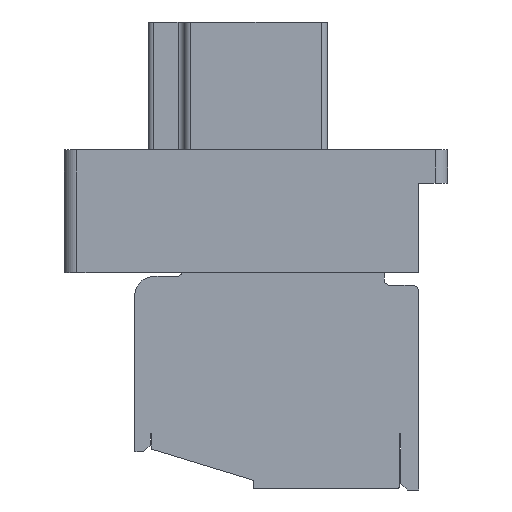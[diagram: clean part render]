
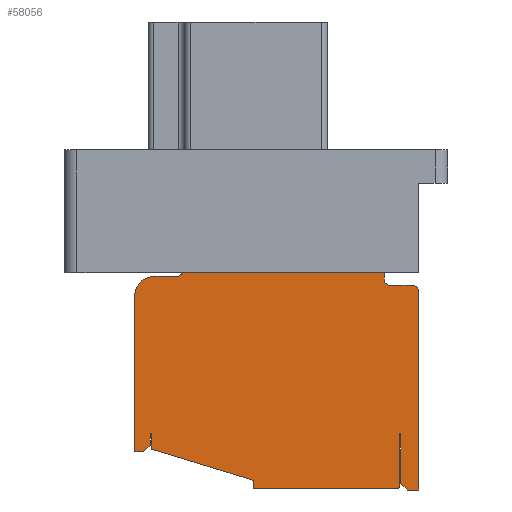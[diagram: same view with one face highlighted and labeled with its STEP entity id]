
A CAD part, left-side view. The second image highlights one B-rep face of the part: STEP entity #58056.
In plain terms, the highlighted planar face has unit normal (-1, 0, 0).
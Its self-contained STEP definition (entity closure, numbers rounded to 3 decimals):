
#873=DIRECTION('',(0.,-1.,0.));
#874=VECTOR('',#873,5.6);
#875=CARTESIAN_POINT('',(0.44,6.45,-18.25));
#876=LINE('',#875,#874);
#5523=DIRECTION('',(0.,0.,-1.));
#5524=VECTOR('',#5523,1.95);
#5525=CARTESIAN_POINT('',(0.44,0.7,-16.1));
#5526=LINE('',#5525,#5524);
#5579=DIRECTION('',(0.,0.,1.));
#5580=VECTOR('',#5579,7.75);
#5581=CARTESIAN_POINT('',(0.44,0.,-18.3));
#5582=LINE('',#5581,#5580);
#5843=DIRECTION('',(0.,-1.,0.));
#5844=VECTOR('',#5843,0.45);
#5845=CARTESIAN_POINT('',(0.44,0.45,-18.3));
#5846=LINE('',#5845,#5844);
#5859=DIRECTION('',(0.,1.,0.));
#5860=VECTOR('',#5859,0.05);
#5861=CARTESIAN_POINT('',(0.44,0.7,-16.1));
#5862=LINE('',#5861,#5860);
#5863=DIRECTION('',(0.,0.,-1.));
#5864=VECTOR('',#5863,2.05);
#5865=CARTESIAN_POINT('',(0.44,0.75,-16.1));
#5866=LINE('',#5865,#5864);
#5867=CARTESIAN_POINT('',(0.44,0.85,-18.15));
#5868=DIRECTION('',(1.,0.,0.));
#5869=DIRECTION('',(0.,-1.,0.));
#5870=AXIS2_PLACEMENT_3D('',#5867,#5868,#5869);
#5872=DIRECTION('',(0.,0.956,0.292));
#5873=VECTOR('',#5872,4.183);
#5874=CARTESIAN_POINT('',(0.44,6.45,-17.923));
#5875=LINE('',#5874,#5873);
#5876=DIRECTION('',(0.,0.,1.));
#5877=VECTOR('',#5876,0.6);
#5878=CARTESIAN_POINT('',(0.44,10.45,-16.7));
#5879=LINE('',#5878,#5877);
#5880=DIRECTION('',(0.,1.,0.));
#5881=VECTOR('',#5880,0.05);
#5882=CARTESIAN_POINT('',(0.44,10.45,-16.1));
#5883=LINE('',#5882,#5881);
#5884=DIRECTION('',(0.,0.,-1.));
#5885=VECTOR('',#5884,0.45);
#5886=CARTESIAN_POINT('',(0.44,10.5,-16.1));
#5887=LINE('',#5886,#5885);
#5888=DIRECTION('',(0.,0.707,-0.707));
#5889=VECTOR('',#5888,0.354);
#5890=CARTESIAN_POINT('',(0.44,10.5,-16.55));
#5891=LINE('',#5890,#5889);
#5892=DIRECTION('',(0.,0.,1.));
#5893=VECTOR('',#5892,6.1);
#5894=CARTESIAN_POINT('',(0.44,11.1,-16.8));
#5895=LINE('',#5894,#5893);
#5896=CARTESIAN_POINT('',(0.44,10.35,-10.7));
#5897=DIRECTION('',(1.,0.,0.));
#5898=DIRECTION('',(0.,1.,0.));
#5899=AXIS2_PLACEMENT_3D('',#5896,#5897,#5898);
#5901=CARTESIAN_POINT('',(0.44,9.48,-9.7));
#5902=DIRECTION('',(-1.,0.,0.));
#5903=DIRECTION('',(0.,0.,-1.));
#5904=AXIS2_PLACEMENT_3D('',#5901,#5902,#5903);
#5906=CARTESIAN_POINT('',(0.44,9.48,-9.25));
#5907=DIRECTION('',(-1.,0.,0.));
#5908=DIRECTION('',(0.,-1.,0.));
#5909=AXIS2_PLACEMENT_3D('',#5906,#5907,#5908);
#5911=DIRECTION('',(0.,-0.707,-0.707));
#5912=VECTOR('',#5911,0.707);
#5913=CARTESIAN_POINT('',(0.44,3.56,-8.5));
#5914=LINE('',#5913,#5912);
#5915=CARTESIAN_POINT('',(0.44,1.6,-9.25));
#5916=DIRECTION('',(1.,0.,0.));
#5917=DIRECTION('',(0.,0.,1.));
#5918=AXIS2_PLACEMENT_3D('',#5915,#5916,#5917);
#5920=CARTESIAN_POINT('',(0.44,1.1,-10.05));
#5921=DIRECTION('',(-1.,0.,0.));
#5922=DIRECTION('',(0.,1.,0.));
#5923=AXIS2_PLACEMENT_3D('',#5920,#5921,#5922);
#5925=CARTESIAN_POINT('',(0.44,0.25,-10.55));
#5926=DIRECTION('',(1.,0.,0.));
#5927=DIRECTION('',(0.,0.,1.));
#5928=AXIS2_PLACEMENT_3D('',#5925,#5926,#5927);
#5930=DIRECTION('',(0.,0.707,0.707));
#5931=VECTOR('',#5930,0.354);
#5932=CARTESIAN_POINT('',(0.44,0.45,-18.3));
#5933=LINE('',#5932,#5931);
#15643=DIRECTION('',(0.,0.,-1.));
#15644=VECTOR('',#15643,0.327);
#15645=CARTESIAN_POINT('',(0.44,6.45,-17.923));
#15646=LINE('',#15645,#15644);
#15663=DIRECTION('',(0.,1.,0.));
#15664=VECTOR('',#15663,0.85);
#15665=CARTESIAN_POINT('',(0.44,0.25,-10.3));
#15666=LINE('',#15665,#15664);
#15679=DIRECTION('',(0.,0.,1.));
#15680=VECTOR('',#15679,0.8);
#15681=CARTESIAN_POINT('',(0.44,1.35,-10.05));
#15682=LINE('',#15681,#15680);
#15695=DIRECTION('',(0.,1.,0.));
#15696=VECTOR('',#15695,1.46);
#15697=CARTESIAN_POINT('',(0.44,1.6,-9.));
#15698=LINE('',#15697,#15696);
#15711=DIRECTION('',(0.,0.,-1.));
#15712=VECTOR('',#15711,0.5);
#15713=CARTESIAN_POINT('',(0.44,3.56,-8.5));
#15714=LINE('',#15713,#15712);
#15728=DIRECTION('',(0.,1.,0.));
#15729=VECTOR('',#15728,5.92);
#15730=CARTESIAN_POINT('',(0.44,3.56,-9.));
#15731=LINE('',#15730,#15729);
#18881=DIRECTION('',(0.,0.,-1.));
#18882=VECTOR('',#18881,0.45);
#18883=CARTESIAN_POINT('',(0.44,9.23,-9.25));
#18884=LINE('',#18883,#18882);
#18967=DIRECTION('',(0.,1.,0.));
#18968=VECTOR('',#18967,0.87);
#18969=CARTESIAN_POINT('',(0.44,9.48,-9.95));
#18970=LINE('',#18969,#18968);
#19920=DIRECTION('',(0.,-1.,0.));
#19921=VECTOR('',#19920,0.35);
#19922=CARTESIAN_POINT('',(0.44,11.1,-16.8));
#19923=LINE('',#19922,#19921);
#46464=CARTESIAN_POINT('',(0.44,11.1,-16.8));
#46465=CARTESIAN_POINT('',(0.44,11.1,-10.7));
#46466=VERTEX_POINT('',#46464);
#46467=VERTEX_POINT('',#46465);
#46534=CARTESIAN_POINT('',(0.44,10.5,-16.1));
#46535=VERTEX_POINT('',#46534);
#46537=CARTESIAN_POINT('',(0.44,0.7,-16.1));
#46539=VERTEX_POINT('',#46537);
#46540=CARTESIAN_POINT('',(0.44,3.56,-8.5));
#46541=CARTESIAN_POINT('',(0.44,3.06,-9.));
#46542=VERTEX_POINT('',#46540);
#46543=VERTEX_POINT('',#46541);
#46544=CARTESIAN_POINT('',(0.44,1.6,-9.));
#46545=CARTESIAN_POINT('',(0.44,1.35,-9.25));
#46546=VERTEX_POINT('',#46544);
#46547=VERTEX_POINT('',#46545);
#46548=CARTESIAN_POINT('',(0.44,1.35,-10.05));
#46549=CARTESIAN_POINT('',(0.44,1.1,-10.3));
#46550=VERTEX_POINT('',#46548);
#46551=VERTEX_POINT('',#46549);
#46552=CARTESIAN_POINT('',(0.44,0.25,-10.3));
#46553=CARTESIAN_POINT('',(0.44,0.,-10.55));
#46554=VERTEX_POINT('',#46552);
#46555=VERTEX_POINT('',#46553);
#46556=CARTESIAN_POINT('',(0.44,0.45,-18.3));
#46557=CARTESIAN_POINT('',(0.44,0.7,-18.05));
#46558=VERTEX_POINT('',#46556);
#46559=VERTEX_POINT('',#46557);
#46560=CARTESIAN_POINT('',(0.44,10.5,-16.55));
#46561=VERTEX_POINT('',#46560);
#46562=CARTESIAN_POINT('',(0.44,10.75,-16.8));
#46563=VERTEX_POINT('',#46562);
#46564=CARTESIAN_POINT('',(0.44,10.35,-9.95));
#46565=VERTEX_POINT('',#46564);
#46566=CARTESIAN_POINT('',(0.44,9.48,-9.95));
#46567=CARTESIAN_POINT('',(0.44,9.23,-9.7));
#46568=VERTEX_POINT('',#46566);
#46569=VERTEX_POINT('',#46567);
#46570=CARTESIAN_POINT('',(0.44,9.23,-9.25));
#46571=CARTESIAN_POINT('',(0.44,9.48,-9.));
#46572=VERTEX_POINT('',#46570);
#46573=VERTEX_POINT('',#46571);
#46578=CARTESIAN_POINT('',(0.44,3.56,-9.));
#46579=VERTEX_POINT('',#46578);
#46690=CARTESIAN_POINT('',(0.44,0.,-18.3));
#46691=VERTEX_POINT('',#46690);
#47639=CARTESIAN_POINT('',(0.44,0.75,-18.15));
#47640=CARTESIAN_POINT('',(0.44,0.85,-18.25));
#47641=VERTEX_POINT('',#47639);
#47642=VERTEX_POINT('',#47640);
#47643=CARTESIAN_POINT('',(0.44,6.45,-18.25));
#47644=VERTEX_POINT('',#47643);
#47645=CARTESIAN_POINT('',(0.44,6.45,-17.923));
#47646=VERTEX_POINT('',#47645);
#47647=CARTESIAN_POINT('',(0.44,10.45,-16.7));
#47648=VERTEX_POINT('',#47647);
#48610=CARTESIAN_POINT('',(0.44,0.75,-16.1));
#48611=VERTEX_POINT('',#48610);
#48612=CARTESIAN_POINT('',(0.44,10.45,-16.1));
#48613=VERTEX_POINT('',#48612);
#57999=CARTESIAN_POINT('',(0.44,5.55,-13.4));
#58000=DIRECTION('',(1.,0.,0.));
#58001=DIRECTION('',(0.,-1.,0.));
#58002=AXIS2_PLACEMENT_3D('',#57999,#58000,#58001);
#58003=PLANE('',#58002);
#58005=ORIENTED_EDGE('',*,*,#58004,.T.);
#58006=ORIENTED_EDGE('',*,*,#49451,.T.);
#58007=ORIENTED_EDGE('',*,*,#50005,.T.);
#58008=ORIENTED_EDGE('',*,*,#50020,.F.);
#58010=ORIENTED_EDGE('',*,*,#58009,.F.);
#58012=ORIENTED_EDGE('',*,*,#58011,.T.);
#58013=ORIENTED_EDGE('',*,*,#48879,.T.);
#58015=ORIENTED_EDGE('',*,*,#58014,.T.);
#58016=ORIENTED_EDGE('',*,*,#54908,.T.);
#58018=ORIENTED_EDGE('',*,*,#58017,.T.);
#58020=ORIENTED_EDGE('',*,*,#58019,.F.);
#58021=ORIENTED_EDGE('',*,*,#55052,.T.);
#58023=ORIENTED_EDGE('',*,*,#58022,.T.);
#58025=ORIENTED_EDGE('',*,*,#58024,.F.);
#58027=ORIENTED_EDGE('',*,*,#58026,.T.);
#58029=ORIENTED_EDGE('',*,*,#58028,.F.);
#58031=ORIENTED_EDGE('',*,*,#58030,.T.);
#58033=ORIENTED_EDGE('',*,*,#58032,.F.);
#58035=ORIENTED_EDGE('',*,*,#58034,.F.);
#58037=ORIENTED_EDGE('',*,*,#58036,.T.);
#58039=ORIENTED_EDGE('',*,*,#58038,.F.);
#58041=ORIENTED_EDGE('',*,*,#58040,.T.);
#58043=ORIENTED_EDGE('',*,*,#58042,.F.);
#58045=ORIENTED_EDGE('',*,*,#58044,.T.);
#58047=ORIENTED_EDGE('',*,*,#58046,.F.);
#58049=ORIENTED_EDGE('',*,*,#58048,.T.);
#58050=ORIENTED_EDGE('',*,*,#57604,.F.);
#58051=ORIENTED_EDGE('',*,*,#57977,.F.);
#58052=ORIENTED_EDGE('',*,*,#57991,.T.);
#58053=ORIENTED_EDGE('',*,*,#57475,.F.);
#58054=EDGE_LOOP('',(#58005,#58006,#58007,#58008,#58010,#58012,#58013,#58015,
#58016,#58018,#58020,#58021,#58023,#58025,#58027,#58029,#58031,#58033,#58035,
#58037,#58039,#58041,#58043,#58045,#58047,#58049,#58050,#58051,#58052,#58053));
#58055=FACE_OUTER_BOUND('',#58054,.F.);
#58056=ADVANCED_FACE('',(#58055),#58003,.F.);
#5871=CIRCLE('',#5870,0.1);
#5900=CIRCLE('',#5899,0.75);
#5905=CIRCLE('',#5904,0.25);
#5910=CIRCLE('',#5909,0.25);
#5919=CIRCLE('',#5918,0.25);
#5924=CIRCLE('',#5923,0.25);
#5929=CIRCLE('',#5928,0.25);
#48879=EDGE_CURVE('',#47648,#48613,#5879,.T.);
#49451=EDGE_CURVE('',#48611,#47641,#5866,.T.);
#50005=EDGE_CURVE('',#47641,#47642,#5871,.T.);
#50020=EDGE_CURVE('',#47644,#47642,#876,.T.);
#54908=EDGE_CURVE('',#46535,#46561,#5887,.T.);
#55052=EDGE_CURVE('',#46466,#46467,#5895,.T.);
#57475=EDGE_CURVE('',#46539,#46559,#5526,.T.);
#57604=EDGE_CURVE('',#46691,#46555,#5582,.T.);
#57977=EDGE_CURVE('',#46558,#46691,#5846,.T.);
#57991=EDGE_CURVE('',#46558,#46559,#5933,.T.);
#58004=EDGE_CURVE('',#46539,#48611,#5862,.T.);
#58009=EDGE_CURVE('',#47646,#47644,#15646,.T.);
#58011=EDGE_CURVE('',#47646,#47648,#5875,.T.);
#58014=EDGE_CURVE('',#48613,#46535,#5883,.T.);
#58017=EDGE_CURVE('',#46561,#46563,#5891,.T.);
#58019=EDGE_CURVE('',#46466,#46563,#19923,.T.);
#58022=EDGE_CURVE('',#46467,#46565,#5900,.T.);
#58024=EDGE_CURVE('',#46568,#46565,#18970,.T.);
#58026=EDGE_CURVE('',#46568,#46569,#5905,.T.);
#58028=EDGE_CURVE('',#46572,#46569,#18884,.T.);
#58030=EDGE_CURVE('',#46572,#46573,#5910,.T.);
#58032=EDGE_CURVE('',#46579,#46573,#15731,.T.);
#58034=EDGE_CURVE('',#46542,#46579,#15714,.T.);
#58036=EDGE_CURVE('',#46542,#46543,#5914,.T.);
#58038=EDGE_CURVE('',#46546,#46543,#15698,.T.);
#58040=EDGE_CURVE('',#46546,#46547,#5919,.T.);
#58042=EDGE_CURVE('',#46550,#46547,#15682,.T.);
#58044=EDGE_CURVE('',#46550,#46551,#5924,.T.);
#58046=EDGE_CURVE('',#46554,#46551,#15666,.T.);
#58048=EDGE_CURVE('',#46554,#46555,#5929,.T.);
